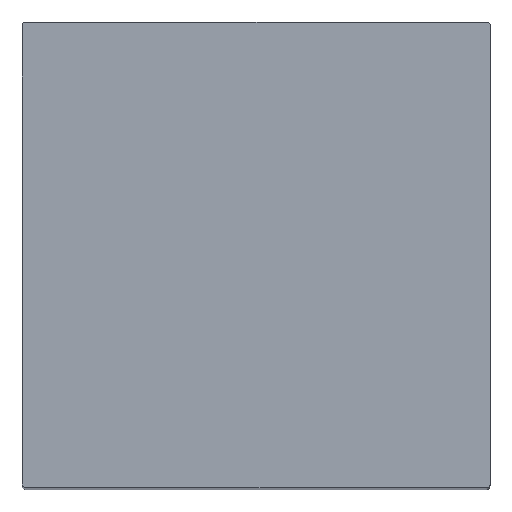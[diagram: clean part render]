
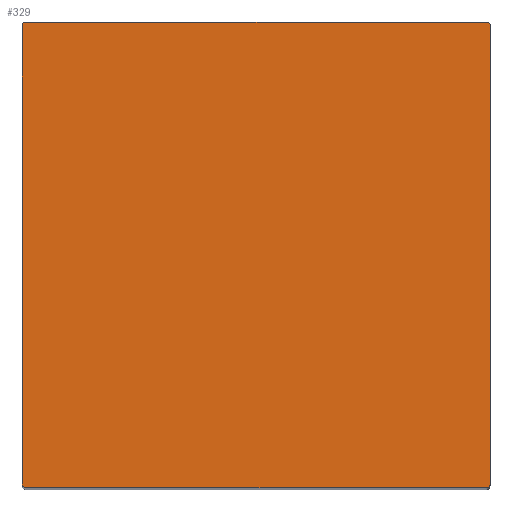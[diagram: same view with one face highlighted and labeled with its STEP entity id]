
A CAD part, top view. The second image highlights one B-rep face of the part: STEP entity #329.
In plain terms, the highlighted planar face has unit normal (0, 0, 1).
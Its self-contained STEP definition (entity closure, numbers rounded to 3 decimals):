
#19 = ORIENTED_EDGE ( 'NONE', *, *, #2004, .T. ) ;
#64 = CARTESIAN_POINT ( 'NONE',  ( 455.379, 174.143, 83. ) ) ;
#109 = CARTESIAN_POINT ( 'NONE',  ( 420.727, 139.387, 83. ) ) ;
#117 = VERTEX_POINT ( 'NONE', #920 ) ;
#118 = LINE ( 'NONE', #109, #1470 ) ;
#119 = LINE ( 'NONE', #2022, #814 ) ;
#120 = VERTEX_POINT ( 'NONE', #724 ) ;
#128 = EDGE_CURVE ( 'NONE', #120, #1325, #707, .T. ) ;
#137 = CARTESIAN_POINT ( 'NONE',  ( 420.522, 174.2, 83. ) ) ;
#194 = LINE ( 'NONE', #1405, #396 ) ;
#199 = VERTEX_POINT ( 'NONE', #1296 ) ;
#243 = VERTEX_POINT ( 'NONE', #1273 ) ;
#273 = CARTESIAN_POINT ( 'NONE',  ( 420.435, 174.005, 83. ) ) ;
#293 = EDGE_LOOP ( 'NONE', ( #784, #1252, #846, #19, #737, #891, #380, #1818 ) ) ;
#294 = DIRECTION ( 'NONE',  ( 0., -1., 0. ) ) ;
#312 = CARTESIAN_POINT ( 'NONE',  ( 420.435, 174.005, 83. ) ) ;
#329 = ADVANCED_FACE ( 'NONE', ( #1624 ), #1946, .F. ) ;
#363 = CARTESIAN_POINT ( 'NONE',  ( 455.241, 174.2, 83. ) ) ;
#378 = DIRECTION ( 'NONE',  ( 0., 0., -1. ) ) ;
#380 = ORIENTED_EDGE ( 'NONE', *, *, #1884, .T. ) ;
#396 = VECTOR ( 'NONE', #1865, 1000. ) ;
#429 = EDGE_CURVE ( 'NONE', #1227, #1601, #562, .T. ) ;
#445 = LINE ( 'NONE', #273, #844 ) ;
#463 = CARTESIAN_POINT ( 'NONE',  ( 455.143, 139.387, 83. ) ) ;
#537 = EDGE_CURVE ( 'NONE', #243, #117, #194, .T. ) ;
#545 = CARTESIAN_POINT ( 'NONE',  ( 455.436, 139.679, 83. ) ) ;
#562 = B_SPLINE_CURVE_WITH_KNOTS ( 'NONE', 3,
 ( #1853, #1679, #754, #1057 ),
 .UNSPECIFIED., .F., .F.,
 ( 4, 4 ),
 ( 0., 1. ),
 .UNSPECIFIED. ) ;
#580 = CARTESIAN_POINT ( 'NONE',  ( 420.63, 174.2, 83. ) ) ;
#651 = B_SPLINE_CURVE_WITH_KNOTS ( 'NONE', 3,
 ( #1483, #1668, #697, #545 ),
 .UNSPECIFIED., .F., .F.,
 ( 4, 4 ),
 ( 0., 1. ),
 .UNSPECIFIED. ) ;
#697 = CARTESIAN_POINT ( 'NONE',  ( 455.436, 139.518, 83. ) ) ;
#707 = B_SPLINE_CURVE_WITH_KNOTS ( 'NONE', 3,
 ( #580, #137, #1228, #2017 ),
 .UNSPECIFIED., .F., .F.,
 ( 4, 4 ),
 ( 0., 1. ),
 .UNSPECIFIED. ) ;
#724 = CARTESIAN_POINT ( 'NONE',  ( 420.63, 174.2, 83. ) ) ;
#737 = ORIENTED_EDGE ( 'NONE', *, *, #429, .T. ) ;
#754 = CARTESIAN_POINT ( 'NONE',  ( 420.566, 139.387, 83. ) ) ;
#784 = ORIENTED_EDGE ( 'NONE', *, *, #1423, .T. ) ;
#814 = VECTOR ( 'NONE', #1989, 1000. ) ;
#844 = VECTOR ( 'NONE', #294, 1000. ) ;
#846 = ORIENTED_EDGE ( 'NONE', *, *, #128, .T. ) ;
#891 = ORIENTED_EDGE ( 'NONE', *, *, #1217, .T. ) ;
#920 = CARTESIAN_POINT ( 'NONE',  ( 455.436, 174.005, 83. ) ) ;
#940 = EDGE_CURVE ( 'NONE', #199, #120, #119, .T. ) ;
#1014 = CARTESIAN_POINT ( 'NONE',  ( 455.436, 174.113, 83. ) ) ;
#1052 = DIRECTION ( 'NONE',  ( 1., 0., 0. ) ) ;
#1057 = CARTESIAN_POINT ( 'NONE',  ( 420.727, 139.387, 83. ) ) ;
#1217 = EDGE_CURVE ( 'NONE', #1601, #1257, #118, .T. ) ;
#1227 = VERTEX_POINT ( 'NONE', #1540 ) ;
#1228 = CARTESIAN_POINT ( 'NONE',  ( 420.435, 174.113, 83. ) ) ;
#1252 = ORIENTED_EDGE ( 'NONE', *, *, #940, .T. ) ;
#1257 = VERTEX_POINT ( 'NONE', #463 ) ;
#1273 = CARTESIAN_POINT ( 'NONE',  ( 455.436, 139.679, 83. ) ) ;
#1283 = AXIS2_PLACEMENT_3D ( 'NONE', #64, #378, #1937 ) ;
#1296 = CARTESIAN_POINT ( 'NONE',  ( 455.241, 174.2, 83. ) ) ;
#1325 = VERTEX_POINT ( 'NONE', #312 ) ;
#1326 = CARTESIAN_POINT ( 'NONE',  ( 455.348, 174.2, 83. ) ) ;
#1405 = CARTESIAN_POINT ( 'NONE',  ( 455.436, 139.679, 83. ) ) ;
#1423 = EDGE_CURVE ( 'NONE', #117, #199, #1682, .T. ) ;
#1470 = VECTOR ( 'NONE', #1052, 1000. ) ;
#1483 = CARTESIAN_POINT ( 'NONE',  ( 455.143, 139.387, 83. ) ) ;
#1540 = CARTESIAN_POINT ( 'NONE',  ( 420.435, 139.679, 83. ) ) ;
#1601 = VERTEX_POINT ( 'NONE', #1662 ) ;
#1624 = FACE_OUTER_BOUND ( 'NONE', #293, .T. ) ;
#1662 = CARTESIAN_POINT ( 'NONE',  ( 420.727, 139.387, 83. ) ) ;
#1668 = CARTESIAN_POINT ( 'NONE',  ( 455.305, 139.387, 83. ) ) ;
#1679 = CARTESIAN_POINT ( 'NONE',  ( 420.435, 139.518, 83. ) ) ;
#1682 = B_SPLINE_CURVE_WITH_KNOTS ( 'NONE', 3,
 ( #1939, #1014, #1326, #363 ),
 .UNSPECIFIED., .F., .F.,
 ( 4, 4 ),
 ( 0., 1. ),
 .UNSPECIFIED. ) ;
#1818 = ORIENTED_EDGE ( 'NONE', *, *, #537, .T. ) ;
#1853 = CARTESIAN_POINT ( 'NONE',  ( 420.435, 139.679, 83. ) ) ;
#1865 = DIRECTION ( 'NONE',  ( 0., 1., 0. ) ) ;
#1884 = EDGE_CURVE ( 'NONE', #1257, #243, #651, .T. ) ;
#1937 = DIRECTION ( 'NONE',  ( -1., 0., 0. ) ) ;
#1939 = CARTESIAN_POINT ( 'NONE',  ( 455.436, 174.005, 83. ) ) ;
#1946 = PLANE ( 'NONE',  #1283 ) ;
#1989 = DIRECTION ( 'NONE',  ( -1., 0., 0. ) ) ;
#2004 = EDGE_CURVE ( 'NONE', #1325, #1227, #445, .T. ) ;
#2017 = CARTESIAN_POINT ( 'NONE',  ( 420.435, 174.005, 83. ) ) ;
#2022 = CARTESIAN_POINT ( 'NONE',  ( 455.241, 174.2, 83. ) ) ;
